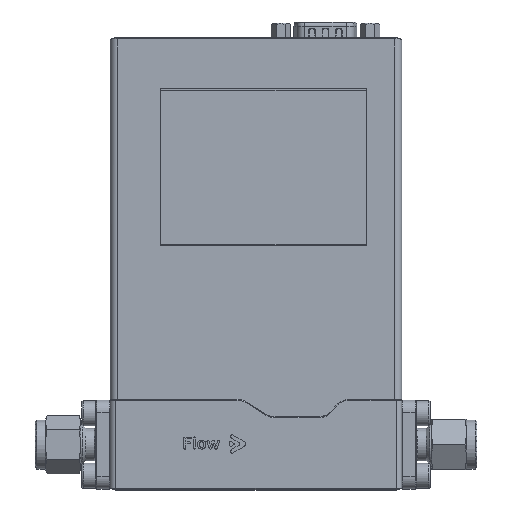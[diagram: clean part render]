
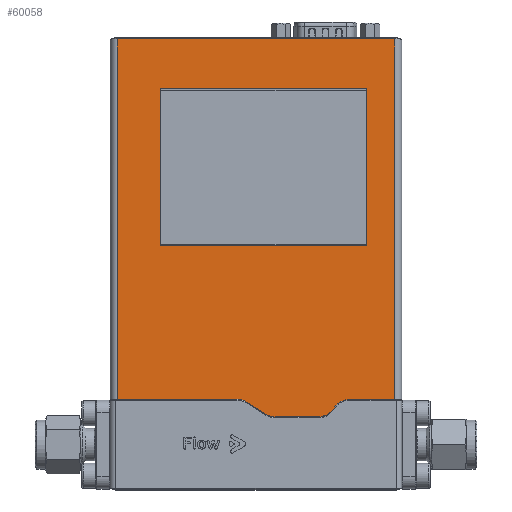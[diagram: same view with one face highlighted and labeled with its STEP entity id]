
A CAD part, top view. The second image highlights one B-rep face of the part: STEP entity #60058.
In plain terms, the highlighted planar face has unit normal (0, 0, 1).
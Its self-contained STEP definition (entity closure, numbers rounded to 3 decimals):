
#1345=FACE_BOUND('',#7379,.T.);
#1742=PLANE('',#63546);
#4045=FACE_OUTER_BOUND('',#7378,.T.);
#7378=EDGE_LOOP('',(#39762,#39763,#39764,#39765,#39766,#39767,#39768,#39769,
#39770,#39771,#39772,#39773));
#7379=EDGE_LOOP('',(#39774,#39775,#39776,#39777));
#11105=LINE('',#84182,#17206);
#11106=LINE('',#84186,#17207);
#11107=LINE('',#84190,#17208);
#11108=LINE('',#84194,#17209);
#11109=LINE('',#84196,#17210);
#11110=LINE('',#84198,#17211);
#11111=LINE('',#84200,#17212);
#11112=LINE('',#84202,#17213);
#11113=LINE('',#84206,#17214);
#11114=LINE('',#84208,#17215);
#11115=LINE('',#84210,#17216);
#11116=LINE('',#84211,#17217);
#17206=VECTOR('',#68848,1000.);
#17207=VECTOR('',#68851,1000.);
#17208=VECTOR('',#68854,1000.);
#17209=VECTOR('',#68857,1000.);
#17210=VECTOR('',#68858,1000.);
#17211=VECTOR('',#68859,1000.);
#17212=VECTOR('',#68860,1000.);
#17213=VECTOR('',#68861,1000.);
#17214=VECTOR('',#68864,1000.);
#17215=VECTOR('',#68865,1000.);
#17216=VECTOR('',#68866,1000.);
#17217=VECTOR('',#68867,1000.);
#23104=CIRCLE('',#63547,5.);
#23105=CIRCLE('',#63548,5.);
#23106=CIRCLE('',#63549,5.);
#23107=CIRCLE('',#63550,5.);
#24931=VERTEX_POINT('',#84180);
#24932=VERTEX_POINT('',#84181);
#24933=VERTEX_POINT('',#84183);
#24934=VERTEX_POINT('',#84185);
#24935=VERTEX_POINT('',#84187);
#24936=VERTEX_POINT('',#84189);
#24937=VERTEX_POINT('',#84191);
#24938=VERTEX_POINT('',#84193);
#24939=VERTEX_POINT('',#84195);
#24940=VERTEX_POINT('',#84197);
#24941=VERTEX_POINT('',#84199);
#24942=VERTEX_POINT('',#84201);
#24943=VERTEX_POINT('',#84204);
#24944=VERTEX_POINT('',#84205);
#24945=VERTEX_POINT('',#84207);
#24946=VERTEX_POINT('',#84209);
#30687=EDGE_CURVE('',#24931,#24932,#11105,.T.);
#30688=EDGE_CURVE('',#24932,#24933,#23104,.T.);
#30689=EDGE_CURVE('',#24933,#24934,#11106,.T.);
#30690=EDGE_CURVE('',#24934,#24935,#23105,.T.);
#30691=EDGE_CURVE('',#24935,#24936,#11107,.T.);
#30692=EDGE_CURVE('',#24936,#24937,#23106,.T.);
#30693=EDGE_CURVE('',#24937,#24938,#11108,.T.);
#30694=EDGE_CURVE('',#24938,#24939,#11109,.T.);
#30695=EDGE_CURVE('',#24940,#24939,#11110,.T.);
#30696=EDGE_CURVE('',#24941,#24940,#11111,.T.);
#30697=EDGE_CURVE('',#24941,#24942,#11112,.T.);
#30698=EDGE_CURVE('',#24942,#24931,#23107,.T.);
#30699=EDGE_CURVE('',#24943,#24944,#11113,.T.);
#30700=EDGE_CURVE('',#24945,#24943,#11114,.T.);
#30701=EDGE_CURVE('',#24946,#24945,#11115,.T.);
#30702=EDGE_CURVE('',#24944,#24946,#11116,.T.);
#39762=ORIENTED_EDGE('',*,*,#30687,.T.);
#39763=ORIENTED_EDGE('',*,*,#30688,.T.);
#39764=ORIENTED_EDGE('',*,*,#30689,.T.);
#39765=ORIENTED_EDGE('',*,*,#30690,.T.);
#39766=ORIENTED_EDGE('',*,*,#30691,.T.);
#39767=ORIENTED_EDGE('',*,*,#30692,.T.);
#39768=ORIENTED_EDGE('',*,*,#30693,.T.);
#39769=ORIENTED_EDGE('',*,*,#30694,.T.);
#39770=ORIENTED_EDGE('',*,*,#30695,.F.);
#39771=ORIENTED_EDGE('',*,*,#30696,.F.);
#39772=ORIENTED_EDGE('',*,*,#30697,.T.);
#39773=ORIENTED_EDGE('',*,*,#30698,.T.);
#39774=ORIENTED_EDGE('',*,*,#30699,.F.);
#39775=ORIENTED_EDGE('',*,*,#30700,.F.);
#39776=ORIENTED_EDGE('',*,*,#30701,.F.);
#39777=ORIENTED_EDGE('',*,*,#30702,.F.);
#60058=ADVANCED_FACE('',(#4045,#1345),#1742,.T.);
#63546=AXIS2_PLACEMENT_3D('',#84179,#68846,#68847);
#63547=AXIS2_PLACEMENT_3D('',#84184,#68849,#68850);
#63548=AXIS2_PLACEMENT_3D('',#84188,#68852,#68853);
#63549=AXIS2_PLACEMENT_3D('',#84192,#68855,#68856);
#63550=AXIS2_PLACEMENT_3D('',#84203,#68862,#68863);
#68846=DIRECTION('center_axis',(0.,0.,1.));
#68847=DIRECTION('ref_axis',(1.,0.,0.));
#68848=DIRECTION('',(0.848,-0.53,0.));
#68849=DIRECTION('center_axis',(0.,0.,1.));
#68850=DIRECTION('ref_axis',(-1.,0.,0.));
#68851=DIRECTION('',(1.,0.,0.));
#68852=DIRECTION('center_axis',(0.,0.,1.));
#68853=DIRECTION('ref_axis',(-1.,0.,0.));
#68854=DIRECTION('',(0.629,0.777,0.));
#68855=DIRECTION('center_axis',(0.,0.,
-1.));
#68856=DIRECTION('ref_axis',(-1.,0.,0.));
#68857=DIRECTION('',(1.,0.,0.));
#68858=DIRECTION('',(0.,1.,0.));
#68859=DIRECTION('',(1.,0.,0.));
#68860=DIRECTION('',(0.,1.,0.));
#68861=DIRECTION('',(1.,0.,0.));
#68862=DIRECTION('center_axis',(0.,0.,
-1.));
#68863=DIRECTION('ref_axis',(-1.,0.,0.));
#68864=DIRECTION('',(0.,1.,0.));
#68865=DIRECTION('',(1.,0.,0.));
#68866=DIRECTION('',(0.,-1.,0.));
#68867=DIRECTION('',(-1.,0.,0.));
#84179=CARTESIAN_POINT('Origin',(-5.058,-4.565,15.275));
#84180=CARTESIAN_POINT('',(-37.66,-5.325,15.275));
#84181=CARTESIAN_POINT('',(-32.25,-8.705,15.275));
#84182=CARTESIAN_POINT('',(-31.034,-9.465,15.275));
#84183=CARTESIAN_POINT('',(-29.6,-9.465,15.275));
#84184=CARTESIAN_POINT('Origin',(-29.6,-4.465,15.275));
#84185=CARTESIAN_POINT('',(-17.429,-9.465,15.275));
#84186=CARTESIAN_POINT('',(-15.044,-9.465,15.275));
#84187=CARTESIAN_POINT('',(-13.543,-7.612,15.275));
#84188=CARTESIAN_POINT('Origin',(-17.429,-4.465,15.275));
#84189=CARTESIAN_POINT('',(-12.577,-6.418,15.275));
#84190=CARTESIAN_POINT('',(-11.076,-4.565,15.275));
#84191=CARTESIAN_POINT('',(-8.691,-4.565,15.275));
#84192=CARTESIAN_POINT('Origin',(-8.691,-9.565,15.275));
#84193=CARTESIAN_POINT('',(3.924,-4.565,15.275));
#84194=CARTESIAN_POINT('',(-5.058,-4.565,15.275));
#84195=CARTESIAN_POINT('',(3.924,96.535,15.275));
#84196=CARTESIAN_POINT('',(3.924,-4.565,15.275));
#84197=CARTESIAN_POINT('',(-73.876,96.535,15.275));
#84198=CARTESIAN_POINT('',(-73.876,96.535,15.275));
#84199=CARTESIAN_POINT('',(-73.876,-4.565,15.275));
#84200=CARTESIAN_POINT('',(-73.876,-4.565,15.275));
#84201=CARTESIAN_POINT('',(-40.31,-4.565,15.275));
#84202=CARTESIAN_POINT('',(-5.058,-4.565,15.275));
#84203=CARTESIAN_POINT('Origin',(-40.31,-9.565,15.275));
#84204=CARTESIAN_POINT('',(-3.876,38.535,15.275));
#84205=CARTESIAN_POINT('',(-3.876,82.535,15.275));
#84206=CARTESIAN_POINT('',(-3.876,38.535,15.275));
#84207=CARTESIAN_POINT('',(-61.876,38.535,15.275));
#84208=CARTESIAN_POINT('',(-3.876,38.535,15.275));
#84209=CARTESIAN_POINT('',(-61.876,82.535,15.275));
#84210=CARTESIAN_POINT('',(-61.876,38.535,15.275));
#84211=CARTESIAN_POINT('',(-3.876,82.535,15.275));
